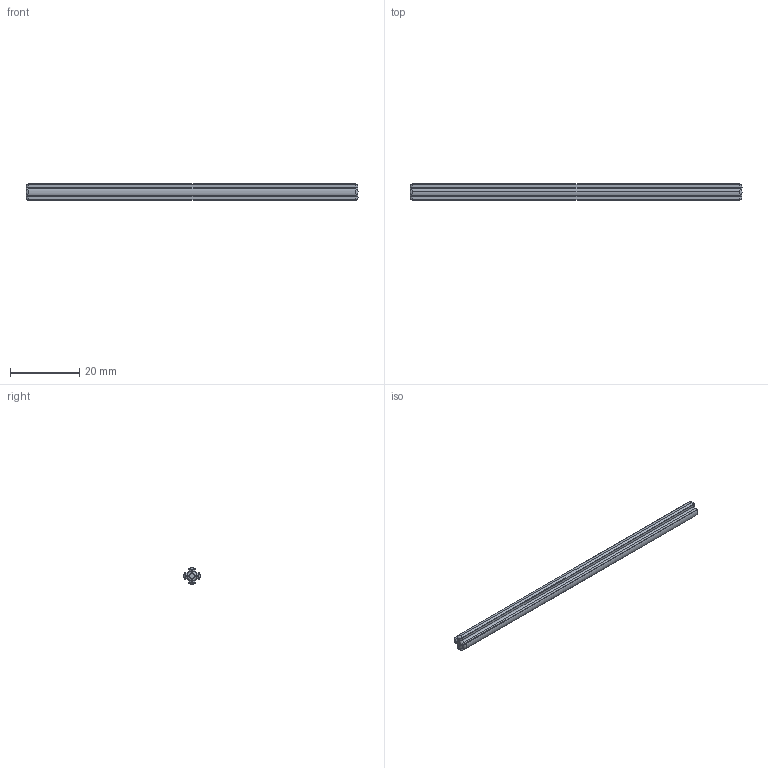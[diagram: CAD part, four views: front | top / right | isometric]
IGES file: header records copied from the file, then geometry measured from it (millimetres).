
Start section: SolidWorks IGES file using analytic representation for surfaces
Global section: file name: C:\Users\PC\Desktop\Lego Technik Gear and Axles\Axles\STEP, IGES, STL\3708 Black Technic Axle 12.IGS; native system: SolidWorks 2014; preprocessor: SolidWorks 2014; author: PC; date: 150218.233507; units: millimetre
Bounding box: 96 x 4.79 x 4.8 mm (x, y, z)
Surface area: 1645.9 mm2 (no closed solid volume)
Topology: 0 solids, 0 shells, 77 faces, 490 edges, 474 vertices
Faces by surface type: bspline 44, revolution 33
